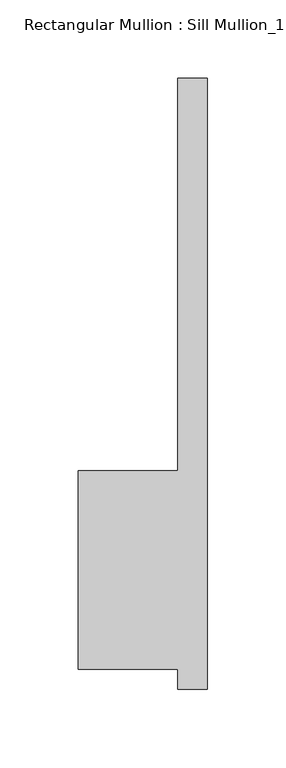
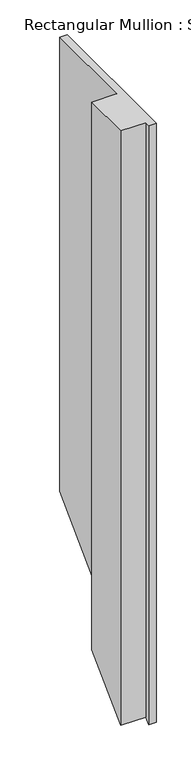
"""IFC4 building model written with IfcOpenShell, lengths in millimetres: member geometry."""

from ifc_helpers import new_model, si_unit, origin, place, context, project, spatial, faceted_brep, source, transform, mapped, element, save


def member_e61767ca(model_context):
    return source(origin(), model_context, "Body", "Brep", [
        faceted_brep([(-82.55, 50.8, 0.0), (-82.55, -76.2, 0.0), (-19.05, -76.2, 0.0), (-19.05, -88.9, 0.0), (0.0, -88.9, 0.0), (0.0, 301.625, 0.0), (-19.05, 301.625, 0.0), (-19.05, 50.8, 0.0), (-82.55, 50.8, -1470.9321429), (-82.55, -76.2, -1597.9321429), (-19.05, -76.2, -1597.9321429), (-19.05, -88.9, -1610.6321429), (0.0, -88.9, -1610.6321429), (0.0, 301.625, -1220.1071429), (-19.05, 301.625, -1220.1071429), (-19.05, 50.8, -1470.9321429)], [[[0, 1, 2, 3, 4, 5, 6, 7]], [[1, 0, 8, 9]], [[2, 1, 9, 10]], [[3, 2, 10, 11]], [[4, 3, 11, 12]], [[5, 4, 12, 13]], [[6, 5, 13, 14]], [[7, 6, 14, 15]], [[0, 7, 15, 8]], [[8, 15, 14, 13, 12, 11, 10, 9]]]),
    ])


if __name__ == "__main__":
    model = new_model("IFC4")
    model_context = context("Model", 3, world=origin())
    ifc_project = project(units=[si_unit("LENGTHUNIT", "METRE", prefix="MILLI")], contexts=[model_context])
    site = spatial("IfcSite", under=ifc_project)
    building = spatial("IfcBuilding", under=site)
    placement = place(None, origin())
    member_shape = member_e61767ca(model_context)
    element("IfcMember", 1, ObjectType="Rectangular Mullion : Sill Mullion_15\" thick wall", at=placement, inside=building, context=model_context, shape_type="MappedRepresentation", body=[
        mapped(member_shape, transform((0.0, 0.0, 0.0), x_axis=(1.0, 0.0, 0.0), y_axis=(0.0, 1.0, 0.0), z_axis=(0.0, 0.0, 1.0))),
    ])
    save(model, "model.ifc")
